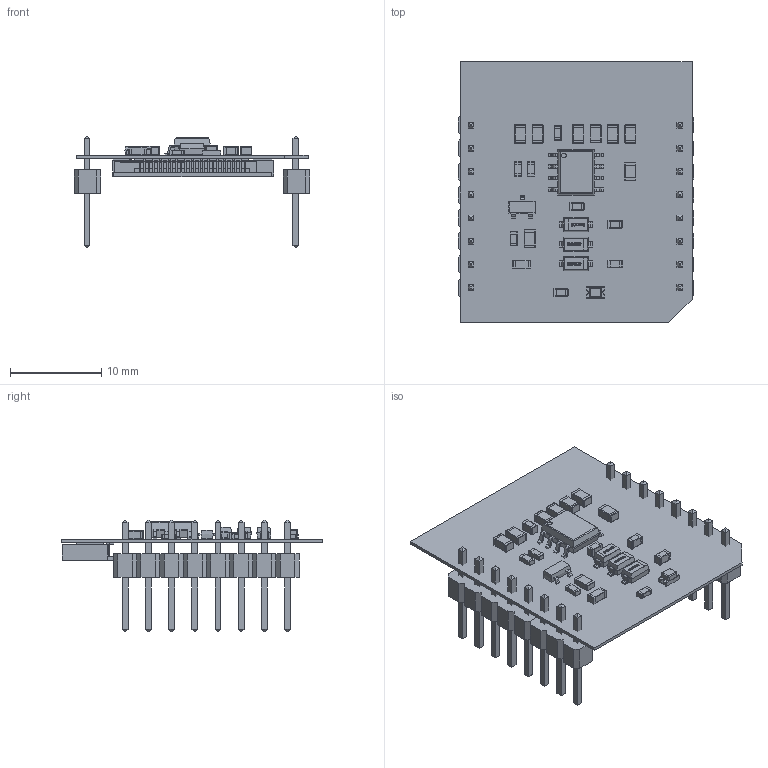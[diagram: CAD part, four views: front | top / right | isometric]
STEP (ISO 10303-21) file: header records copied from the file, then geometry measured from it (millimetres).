
FILE_DESCRIPTION(('Open CASCADE Model'),'2;1');
FILE_NAME('Open CASCADE Shape Model','2017-11-13T17:03:07',('Author'),( 'Open CASCADE'),'Open CASCADE STEP processor 6.8','Open CASCADE 6.8' ,'Unknown');
FILE_SCHEMA(('AUTOMOTIVE_DESIGN { 1 0 10303 214 1 1 1 1 }'));
Length unit declared in the file: millimetre
Products named in the file (61): PCB; Board; MIKROBUS1; 988806352; User_Library-PinHeaderX3_PinHeader_Body_1; User_Library-PinHeaderX3_PinHeader_Pins_1; 988805968; 988805840; User_Library-PinHeaderX5-1_PinHeaderX5_Pins_1; User_Library-PinHeaderX5-1_PinHeaderX5_Body_1; 988805712; C1; CAPC1608X95N_EIA_0603; C2; C3; C6; CAPC2012X95N_EIA_0805; C7; C8; C9; C10; C11; D1; SOD3716X14; D3; D2; L1; User_Library-Chip_InductorINDC2009X95N; PWR; led_0805_green; Q1; User_Library-SOT95P240X100-3-ONSEMI_SOT-23; R1; User_Library-Chip_Resistor2; R2; User_Library-Chip_Resistor2(2); U1; User_Library-IPC_SOSOIC127P600X175-8AN_SO_SO8-SOT96-1; C4; C5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
Assembly tree (153 placements, depth 4):
  PCB
    Board
    MIKROBUS1
      988806352
        User_Library-PinHeaderX3_PinHeader_Body_1
        User_Library-PinHeaderX3_PinHeader_Pins_1
      988805968
        User_Library-PinHeaderX3_PinHeader_Body_1
        User_Library-PinHeaderX3_PinHeader_Pins_1
      988805840
        User_Library-PinHeaderX5-1_PinHeaderX5_Pins_1
        User_Library-PinHeaderX5-1_PinHeaderX5_Body_1
      988805712
        User_Library-PinHeaderX5-1_PinHeaderX5_Pins_1
        User_Library-PinHeaderX5-1_PinHeaderX5_Body_1
    C1
      CAPC1608X95N_EIA_0603
    C2
      CAPC1608X95N_EIA_0603
    C3
      CAPC1608X95N_EIA_0603
    C6
      CAPC2012X95N_EIA_0805
    C7
      CAPC2012X95N_EIA_0805
    C8
      CAPC2012X95N_EIA_0805
    C9
      CAPC2012X95N_EIA_0805
    C10
      CAPC2012X95N_EIA_0805
    C11
      CAPC2012X95N_EIA_0805
    D1
      SOD3716X14
    D3
      SOD3716X14
    D2
      SOD3716X14
    L1
      User_Library-Chip_InductorINDC2009X95N
    PWR
      led_0805_green
    Q1
      User_Library-SOT95P240X100-3-ONSEMI_SOT-23
    R1
      User_Library-Chip_Resistor2
    R2
      User_Library-Chip_Resistor2(2)
    U1
      User_Library-IPC_SOSOIC127P600X175-8AN_SO_SO8-SOT96-1
    C4
      CAPC1608X95N_EIA_0603
    C5
      CAPC2012X95N_EIA_0805
    R4
      User_Library-Chip_Resistor2
    R5
      User_Library-Chip_Resistor2
    R3
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Bounding box: 25.79 x 28.55 x 12.19 mm (x, y, z)
Volume: 952.7 mm3; surface area: 3775.2 mm2
Topology: 123 solids, 123 shells, 2328 faces, 5593 edges, 3353 vertices
Faces by surface type: plane 1497, cylinder 588, sphere 140, bspline 103
Entity records: 39380 total; most frequent: CARTESIAN_POINT 6544, ORIENTED_EDGE 5122, DIRECTION 5076, EDGE_CURVE 2561, LINE 1990, VECTOR 1990, VERTEX_POINT 1591, AXIS2_PLACEMENT_3D 1543
